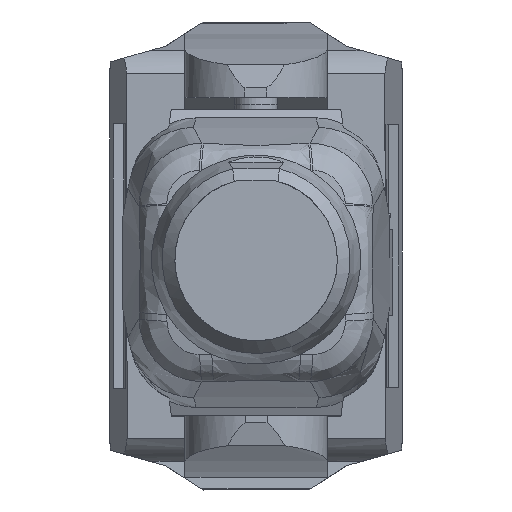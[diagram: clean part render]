
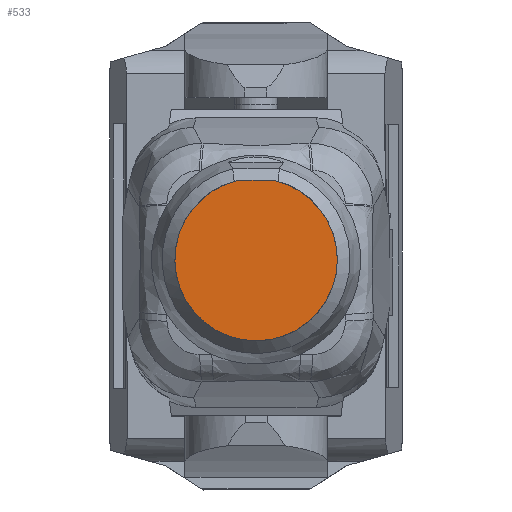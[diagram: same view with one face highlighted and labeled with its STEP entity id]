
A CAD part, top view. The second image highlights one B-rep face of the part: STEP entity #533.
In plain terms, the highlighted planar face has unit normal (0, 0, 1).
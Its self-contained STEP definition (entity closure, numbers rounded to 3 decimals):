
#533 = ADVANCED_FACE( '', ( #1158 ), #1159, .F. );
#1158 = FACE_OUTER_BOUND( '', #2326, .T. );
#1159 = PLANE( '', #2327 );
#2326 = EDGE_LOOP( '', ( #5672, #5673 ) );
#2327 = AXIS2_PLACEMENT_3D( '', #5674, #5675, #5676 );
#5672 = ORIENTED_EDGE( '', *, *, #7407, .F. );
#5673 = ORIENTED_EDGE( '', *, *, #7139, .F. );
#5674 = CARTESIAN_POINT( '', ( 0., 0., 669.524 ) );
#5675 = DIRECTION( '', ( 0., 0., -1. ) );
#5676 = DIRECTION( '', ( -1., 0., 0. ) );
#7139 = EDGE_CURVE( '', #8046, #8047, #8048, .T. );
#7407 = EDGE_CURVE( '', #8047, #8046, #8486, .T. );
#8046 = VERTEX_POINT( '', #9468 );
#8047 = VERTEX_POINT( '', #9469 );
#8048 = LINE( '', #9470, #9471 );
#8486 = CIRCLE( '', #10489, 75.91 );
#9468 = CARTESIAN_POINT( '', ( 16.12, -74.178, 669.524 ) );
#9469 = CARTESIAN_POINT( '', ( -16.12, -74.178, 669.524 ) );
#9470 = CARTESIAN_POINT( '', ( 125., -74.178, 669.524 ) );
#9471 = VECTOR( '', #12638, 1000. );
#10489 = AXIS2_PLACEMENT_3D( '', #12955, #12956, #12957 );
#12638 = DIRECTION( '', ( -1., 0., 0. ) );
#12955 = CARTESIAN_POINT( '', ( 0., 0., 669.524 ) );
#12956 = DIRECTION( '', ( 0., 0., -1. ) );
#12957 = DIRECTION( '', ( 1., 0., 0. ) );
